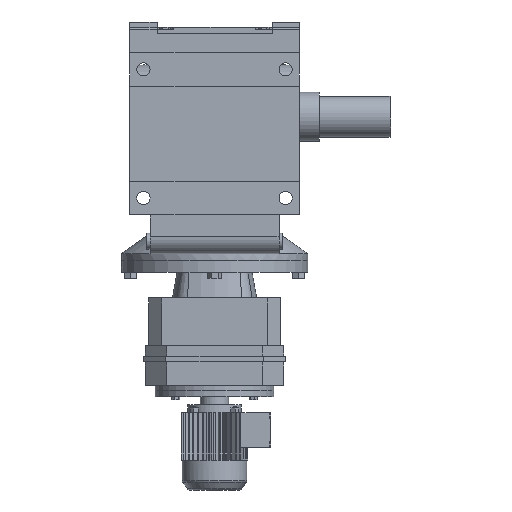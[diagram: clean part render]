
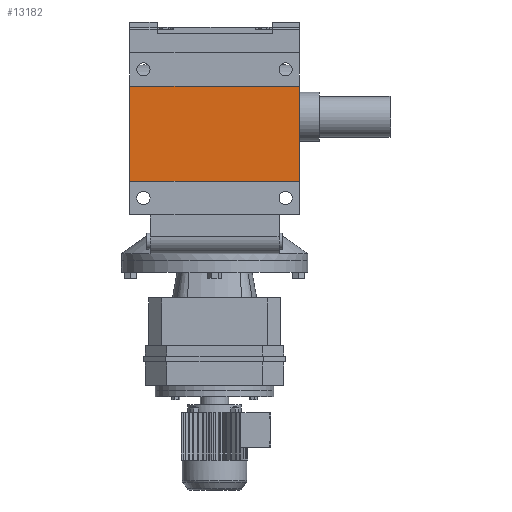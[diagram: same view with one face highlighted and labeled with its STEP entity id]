
A CAD part, front view. The second image highlights one B-rep face of the part: STEP entity #13182.
In plain terms, the highlighted planar face has unit normal (0, -1, 0).
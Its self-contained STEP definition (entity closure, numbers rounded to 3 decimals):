
#1895 = PLANE('',#1896);
#1896 = AXIS2_PLACEMENT_3D('',#1897,#1898,#1899);
#1897 = CARTESIAN_POINT('',(-250.,-379.25,225.));
#1898 = DIRECTION('',(1.,0.,0.));
#1899 = DIRECTION('',(0.,0.,-1.));
#4480 = PLANE('',#4481);
#4481 = AXIS2_PLACEMENT_3D('',#4482,#4483,#4484);
#4482 = CARTESIAN_POINT('',(250.,-379.25,225.));
#4483 = DIRECTION('',(1.,0.,0.));
#4484 = DIRECTION('',(0.,0.,-1.));
#6169 = VERTEX_POINT('',#6170);
#6170 = CARTESIAN_POINT('',(-250.,-434.25,-190.));
#6184 = PLANE('',#6185);
#6185 = AXIS2_PLACEMENT_3D('',#6186,#6187,#6188);
#6186 = CARTESIAN_POINT('',(250.,-434.25,-190.));
#6187 = DIRECTION('',(0.,0.,-1.));
#6188 = DIRECTION('',(-1.,0.,0.));
#6196 = EDGE_CURVE('',#6197,#6169,#6199,.T.);
#6197 = VERTEX_POINT('',#6198);
#6198 = CARTESIAN_POINT('',(-250.,-434.25,90.));
#6199 = SURFACE_CURVE('',#6200,(#6204,#6211),.PCURVE_S1.);
#6200 = LINE('',#6201,#6202);
#6201 = CARTESIAN_POINT('',(-250.,-434.25,90.));
#6202 = VECTOR('',#6203,1.);
#6203 = DIRECTION('',(0.,0.,-1.));
#6204 = PCURVE('',#1895,#6205);
#6205 = DEFINITIONAL_REPRESENTATION('',(#6206),#6210);
#6206 = LINE('',#6207,#6208);
#6207 = CARTESIAN_POINT('',(135.,-55.));
#6208 = VECTOR('',#6209,1.);
#6209 = DIRECTION('',(1.,0.));
#6210 = ( GEOMETRIC_REPRESENTATION_CONTEXT(2) 
PARAMETRIC_REPRESENTATION_CONTEXT() REPRESENTATION_CONTEXT('2D SPACE',''
  ) );
#6211 = PCURVE('',#6212,#6217);
#6212 = PLANE('',#6213);
#6213 = AXIS2_PLACEMENT_3D('',#6214,#6215,#6216);
#6214 = CARTESIAN_POINT('',(190.5,-434.25,230.));
#6215 = DIRECTION('',(0.,1.,0.));
#6216 = DIRECTION('',(0.,0.,1.));
#6217 = DEFINITIONAL_REPRESENTATION('',(#6218),#6222);
#6218 = LINE('',#6219,#6220);
#6219 = CARTESIAN_POINT('',(-140.,-440.5));
#6220 = VECTOR('',#6221,1.);
#6221 = DIRECTION('',(-1.,0.));
#6222 = ( GEOMETRIC_REPRESENTATION_CONTEXT(2) 
PARAMETRIC_REPRESENTATION_CONTEXT() REPRESENTATION_CONTEXT('2D SPACE',''
  ) );
#6240 = PLANE('',#6241);
#6241 = AXIS2_PLACEMENT_3D('',#6242,#6243,#6244);
#6242 = CARTESIAN_POINT('',(250.,-434.25,90.));
#6243 = DIRECTION('',(0.,0.,1.));
#6244 = DIRECTION('',(1.,0.,0.));
#10479 = VERTEX_POINT('',#10480);
#10480 = CARTESIAN_POINT('',(250.,-434.25,90.));
#10501 = EDGE_CURVE('',#10479,#10502,#10504,.T.);
#10502 = VERTEX_POINT('',#10503);
#10503 = CARTESIAN_POINT('',(250.,-434.25,-190.));
#10504 = SURFACE_CURVE('',#10505,(#10509,#10516),.PCURVE_S1.);
#10505 = LINE('',#10506,#10507);
#10506 = CARTESIAN_POINT('',(250.,-434.25,90.));
#10507 = VECTOR('',#10508,1.);
#10508 = DIRECTION('',(0.,0.,-1.));
#10509 = PCURVE('',#4480,#10510);
#10510 = DEFINITIONAL_REPRESENTATION('',(#10511),#10515);
#10511 = LINE('',#10512,#10513);
#10512 = CARTESIAN_POINT('',(135.,-55.));
#10513 = VECTOR('',#10514,1.);
#10514 = DIRECTION('',(1.,0.));
#10515 = ( GEOMETRIC_REPRESENTATION_CONTEXT(2) 
PARAMETRIC_REPRESENTATION_CONTEXT() REPRESENTATION_CONTEXT('2D SPACE',''
  ) );
#10516 = PCURVE('',#6212,#10517);
#10517 = DEFINITIONAL_REPRESENTATION('',(#10518),#10522);
#10518 = LINE('',#10519,#10520);
#10519 = CARTESIAN_POINT('',(-140.,59.5));
#10520 = VECTOR('',#10521,1.);
#10521 = DIRECTION('',(-1.,0.));
#10522 = ( GEOMETRIC_REPRESENTATION_CONTEXT(2) 
PARAMETRIC_REPRESENTATION_CONTEXT() REPRESENTATION_CONTEXT('2D SPACE',''
  ) );
#13113 = EDGE_CURVE('',#10502,#6169,#13114,.T.);
#13114 = SURFACE_CURVE('',#13115,(#13119,#13126),.PCURVE_S1.);
#13115 = LINE('',#13116,#13117);
#13116 = CARTESIAN_POINT('',(250.,-434.25,-190.));
#13117 = VECTOR('',#13118,1.);
#13118 = DIRECTION('',(-1.,0.,0.));
#13119 = PCURVE('',#6184,#13120);
#13120 = DEFINITIONAL_REPRESENTATION('',(#13121),#13125);
#13121 = LINE('',#13122,#13123);
#13122 = CARTESIAN_POINT('',(0.,0.));
#13123 = VECTOR('',#13124,1.);
#13124 = DIRECTION('',(1.,0.));
#13125 = ( GEOMETRIC_REPRESENTATION_CONTEXT(2) 
PARAMETRIC_REPRESENTATION_CONTEXT() REPRESENTATION_CONTEXT('2D SPACE',''
  ) );
#13126 = PCURVE('',#6212,#13127);
#13127 = DEFINITIONAL_REPRESENTATION('',(#13128),#13132);
#13128 = LINE('',#13129,#13130);
#13129 = CARTESIAN_POINT('',(-420.,59.5));
#13130 = VECTOR('',#13131,1.);
#13131 = DIRECTION('',(0.,-1.));
#13132 = ( GEOMETRIC_REPRESENTATION_CONTEXT(2) 
PARAMETRIC_REPRESENTATION_CONTEXT() REPRESENTATION_CONTEXT('2D SPACE',''
  ) );
#13182 = ADVANCED_FACE('',(#13183),#6212,.F.);
#13183 = FACE_BOUND('',#13184,.T.);
#13184 = EDGE_LOOP('',(#13185,#13206,#13207,#13208));
#13185 = ORIENTED_EDGE('',*,*,#13186,.T.);
#13186 = EDGE_CURVE('',#10479,#6197,#13187,.T.);
#13187 = SURFACE_CURVE('',#13188,(#13192,#13199),.PCURVE_S1.);
#13188 = LINE('',#13189,#13190);
#13189 = CARTESIAN_POINT('',(250.,-434.25,90.));
#13190 = VECTOR('',#13191,1.);
#13191 = DIRECTION('',(-1.,0.,0.));
#13192 = PCURVE('',#6212,#13193);
#13193 = DEFINITIONAL_REPRESENTATION('',(#13194),#13198);
#13194 = LINE('',#13195,#13196);
#13195 = CARTESIAN_POINT('',(-140.,59.5));
#13196 = VECTOR('',#13197,1.);
#13197 = DIRECTION('',(0.,-1.));
#13198 = ( GEOMETRIC_REPRESENTATION_CONTEXT(2) 
PARAMETRIC_REPRESENTATION_CONTEXT() REPRESENTATION_CONTEXT('2D SPACE',''
  ) );
#13199 = PCURVE('',#6240,#13200);
#13200 = DEFINITIONAL_REPRESENTATION('',(#13201),#13205);
#13201 = LINE('',#13202,#13203);
#13202 = CARTESIAN_POINT('',(0.,0.));
#13203 = VECTOR('',#13204,1.);
#13204 = DIRECTION('',(-1.,0.));
#13205 = ( GEOMETRIC_REPRESENTATION_CONTEXT(2) 
PARAMETRIC_REPRESENTATION_CONTEXT() REPRESENTATION_CONTEXT('2D SPACE',''
  ) );
#13206 = ORIENTED_EDGE('',*,*,#6196,.T.);
#13207 = ORIENTED_EDGE('',*,*,#13113,.F.);
#13208 = ORIENTED_EDGE('',*,*,#10501,.F.);
